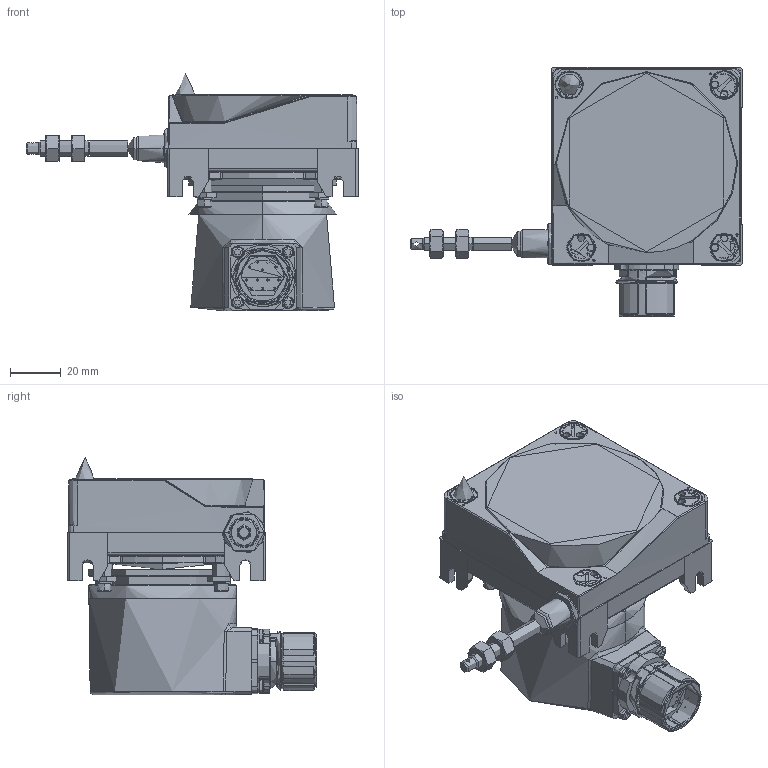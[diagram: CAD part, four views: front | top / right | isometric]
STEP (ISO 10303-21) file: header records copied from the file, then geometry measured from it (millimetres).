
FILE_DESCRIPTION (( 'STEP AP214' ), '1' );
FILE_NAME ('D8.1503.XXXX.XXXX.STEP', '2014-06-24T05:52:43', ( 'HeirlerN' ), ( 'Microsoft' ), 'SwSTEP 2.0', 'SolidWorks 2013', '' );
FILE_SCHEMA (( 'AUTOMOTIVE_DESIGN' ));
Length unit declared in the file: millimetre
Products named in the file (1): D8.1503.XXXX.XXXX
Bounding box: 130.6 x 98.1 x 93.59 mm (x, y, z)
Topology: 0 solids, 61 shells, 962 faces, 2773 edges, 1805 vertices
Faces by surface type: cylinder 349, plane 288, bspline 122, cone 101, torus 100, sphere 2
Full cylindrical faces by diameter (mm): 0.5 x1
Entity records: 53881 total; most frequent: CARTESIAN_POINT 20199, ORIENTED_EDGE 4715, DIRECTION 4630, EDGE_CURVE 2696, VERTEX_POINT 1803, AXIS2_PLACEMENT_3D 1802, EDGE_LOOP 1069, LINE 1026
